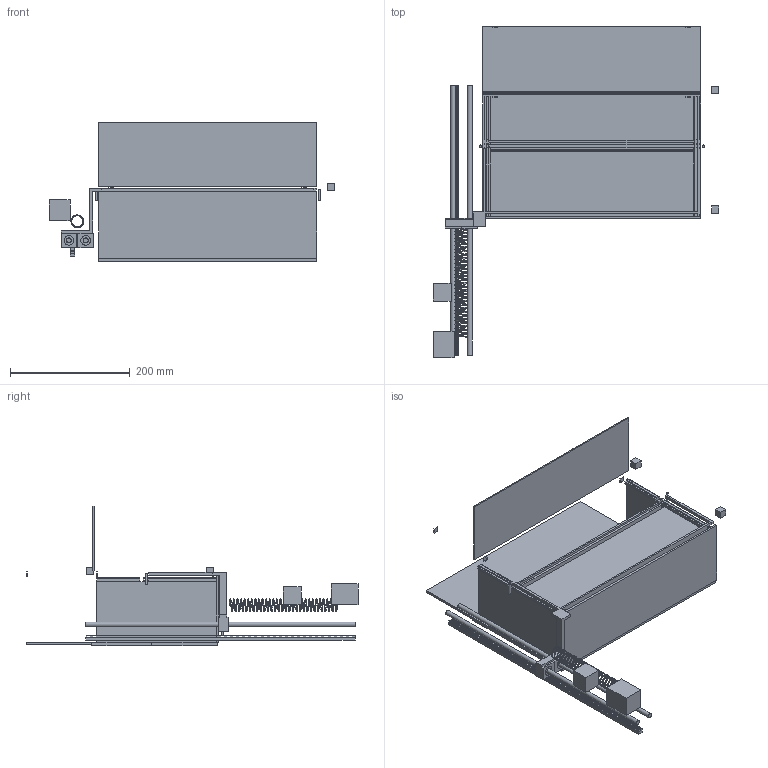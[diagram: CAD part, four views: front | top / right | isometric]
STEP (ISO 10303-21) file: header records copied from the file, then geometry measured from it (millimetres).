
FILE_DESCRIPTION(('FreeCAD Model'),'2;1');
FILE_NAME('Open CASCADE Shape Model','2026-10-19T11:23:50',('FreeCAD'),( 'FreeCAD'),'Open CASCADE STEP processor 7.8','FreeCAD','Unknown');
FILE_SCHEMA(('AUTOMOTIVE_DESIGN { 1 0 10303 214 1 1 1 1 }'));
Length unit declared in the file: millimetre
Products named in the file (1): Open CASCADE STEP translator 7.8 6
Bounding box: 477.5 x 555 x 234 mm (x, y, z)
Volume: 5025450.6 mm3; surface area: 1002120.5 mm2
Topology: 29 solids, 29 shells, 1155 faces, 3288 edges, 2192 vertices
Faces by surface type: plane 1144, cylinder 10, bspline 1
Full cylindrical faces by diameter (mm): 4 x2, 8 x2, 8.5 x2, 16 x4
Entity records: 39877 total; most frequent: CARTESIAN_POINT 9774, ORIENTED_EDGE 6576, DIRECTION 5615, EDGE_CURVE 3288, LINE 3265, VECTOR 3265, VERTEX_POINT 2192, AXIS2_PLACEMENT_3D 1175
